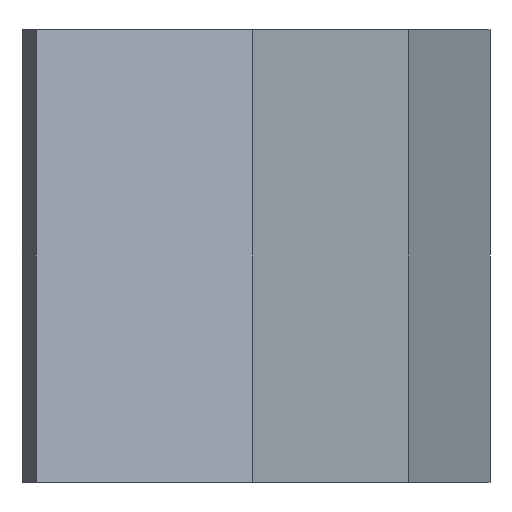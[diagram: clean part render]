
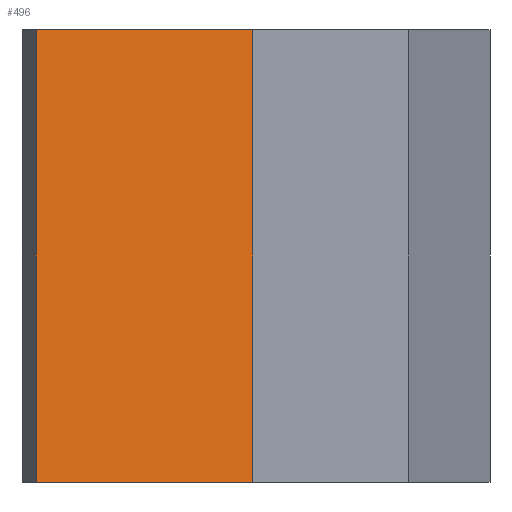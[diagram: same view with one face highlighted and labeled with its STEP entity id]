
A CAD part, left-side view. The second image highlights one B-rep face of the part: STEP entity #496.
In plain terms, the highlighted planar face has unit normal (-0.805, -0.594, 0).
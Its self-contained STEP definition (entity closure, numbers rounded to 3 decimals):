
#44 = PLANE('',#45);
#45 = AXIS2_PLACEMENT_3D('',#46,#47,#48);
#46 = CARTESIAN_POINT('',(64.086,-40.,-55.));
#47 = DIRECTION('',(0.,0.,1.));
#48 = DIRECTION('',(-1.,0.,0.));
#97 = PLANE('',#98);
#98 = AXIS2_PLACEMENT_3D('',#99,#100,#101);
#99 = CARTESIAN_POINT('',(64.086,-40.,-16.));
#100 = DIRECTION('',(0.,0.,1.));
#101 = DIRECTION('',(-1.,0.,0.));
#391 = PLANE('',#392);
#392 = AXIS2_PLACEMENT_3D('',#393,#394,#395);
#393 = CARTESIAN_POINT('',(-32.107,-72.078,-16.));
#394 = DIRECTION('',(0.593,0.805,-0.));
#395 = DIRECTION('',(-0.805,0.593,0.));
#428 = VERTEX_POINT('',#429);
#429 = CARTESIAN_POINT('',(-50.333,-58.644,-55.));
#450 = EDGE_CURVE('',#428,#451,#453,.T.);
#451 = VERTEX_POINT('',#452);
#452 = CARTESIAN_POINT('',(-50.333,-58.644,-16.));
#453 = SURFACE_CURVE('',#454,(#457,#463),.PCURVE_S1.);
#454 = B_SPLINE_CURVE_WITH_KNOTS('',1,(#455,#456),.UNSPECIFIED.,.F.,.F.,
  (2,2),(0.,1.),.PIECEWISE_BEZIER_KNOTS.);
#455 = CARTESIAN_POINT('',(-50.333,-58.644,-55.));
#456 = CARTESIAN_POINT('',(-50.333,-58.644,-16.));
#457 = PCURVE('',#391,#458);
#458 = DEFINITIONAL_REPRESENTATION('',(#459),#462);
#459 = B_SPLINE_CURVE_WITH_KNOTS('',1,(#460,#461),.UNSPECIFIED.,.F.,.F.,
  (2,2),(0.,1.),.PIECEWISE_BEZIER_KNOTS.);
#460 = CARTESIAN_POINT('',(22.641,-39.));
#461 = CARTESIAN_POINT('',(22.641,0.));
#462 = ( GEOMETRIC_REPRESENTATION_CONTEXT(2) 
PARAMETRIC_REPRESENTATION_CONTEXT() REPRESENTATION_CONTEXT('2D SPACE',''
  ) );
#463 = PCURVE('',#464,#469);
#464 = PLANE('',#465);
#465 = AXIS2_PLACEMENT_3D('',#466,#467,#468);
#466 = CARTESIAN_POINT('',(-50.333,-58.644,-16.));
#467 = DIRECTION('',(0.805,0.594,-0.));
#468 = DIRECTION('',(-0.594,0.805,0.));
#469 = DEFINITIONAL_REPRESENTATION('',(#470),#473);
#470 = B_SPLINE_CURVE_WITH_KNOTS('',1,(#471,#472),.UNSPECIFIED.,.F.,.F.,
  (2,2),(0.,1.),.PIECEWISE_BEZIER_KNOTS.);
#471 = CARTESIAN_POINT('',(0.,-39.));
#472 = CARTESIAN_POINT('',(0.,0.));
#473 = ( GEOMETRIC_REPRESENTATION_CONTEXT(2) 
PARAMETRIC_REPRESENTATION_CONTEXT() REPRESENTATION_CONTEXT('2D SPACE',''
  ) );
#496 = ADVANCED_FACE('',(#497),#464,.F.);
#497 = FACE_BOUND('',#498,.F.);
#498 = EDGE_LOOP('',(#499,#522,#547,#568));
#499 = ORIENTED_EDGE('',*,*,#500,.T.);
#500 = EDGE_CURVE('',#428,#501,#503,.T.);
#501 = VERTEX_POINT('',#502);
#502 = CARTESIAN_POINT('',(-64.086,-40.,-55.));
#503 = SURFACE_CURVE('',#504,(#508,#515),.PCURVE_S1.);
#504 = LINE('',#505,#506);
#505 = CARTESIAN_POINT('',(-50.333,-58.644,-55.));
#506 = VECTOR('',#507,1.);
#507 = DIRECTION('',(-0.594,0.805,0.));
#508 = PCURVE('',#464,#509);
#509 = DEFINITIONAL_REPRESENTATION('',(#510),#514);
#510 = LINE('',#511,#512);
#511 = CARTESIAN_POINT('',(0.,-39.));
#512 = VECTOR('',#513,1.);
#513 = DIRECTION('',(1.,0.));
#514 = ( GEOMETRIC_REPRESENTATION_CONTEXT(2) 
PARAMETRIC_REPRESENTATION_CONTEXT() REPRESENTATION_CONTEXT('2D SPACE',''
  ) );
#515 = PCURVE('',#44,#516);
#516 = DEFINITIONAL_REPRESENTATION('',(#517),#521);
#517 = LINE('',#518,#519);
#518 = CARTESIAN_POINT('',(114.419,18.644));
#519 = VECTOR('',#520,1.);
#520 = DIRECTION('',(0.594,-0.805));
#521 = ( GEOMETRIC_REPRESENTATION_CONTEXT(2) 
PARAMETRIC_REPRESENTATION_CONTEXT() REPRESENTATION_CONTEXT('2D SPACE',''
  ) );
#522 = ORIENTED_EDGE('',*,*,#523,.T.);
#523 = EDGE_CURVE('',#501,#524,#526,.T.);
#524 = VERTEX_POINT('',#525);
#525 = CARTESIAN_POINT('',(-64.086,-40.,-16.));
#526 = SURFACE_CURVE('',#527,(#530,#536),.PCURVE_S1.);
#527 = B_SPLINE_CURVE_WITH_KNOTS('',1,(#528,#529),.UNSPECIFIED.,.F.,.F.,
  (2,2),(0.,1.),.PIECEWISE_BEZIER_KNOTS.);
#528 = CARTESIAN_POINT('',(-64.086,-40.,-55.));
#529 = CARTESIAN_POINT('',(-64.086,-40.,-16.));
#530 = PCURVE('',#464,#531);
#531 = DEFINITIONAL_REPRESENTATION('',(#532),#535);
#532 = B_SPLINE_CURVE_WITH_KNOTS('',1,(#533,#534),.UNSPECIFIED.,.F.,.F.,
  (2,2),(0.,1.),.PIECEWISE_BEZIER_KNOTS.);
#533 = CARTESIAN_POINT('',(23.168,-39.));
#534 = CARTESIAN_POINT('',(23.168,0.));
#535 = ( GEOMETRIC_REPRESENTATION_CONTEXT(2) 
PARAMETRIC_REPRESENTATION_CONTEXT() REPRESENTATION_CONTEXT('2D SPACE',''
  ) );
#536 = PCURVE('',#537,#542);
#537 = PLANE('',#538);
#538 = AXIS2_PLACEMENT_3D('',#539,#540,#541);
#539 = CARTESIAN_POINT('',(-64.086,-40.,-16.));
#540 = DIRECTION('',(0.5,-0.866,0.));
#541 = DIRECTION('',(0.866,0.5,0.));
#542 = DEFINITIONAL_REPRESENTATION('',(#543),#546);
#543 = B_SPLINE_CURVE_WITH_KNOTS('',1,(#544,#545),.UNSPECIFIED.,.F.,.F.,
  (2,2),(0.,1.),.PIECEWISE_BEZIER_KNOTS.);
#544 = CARTESIAN_POINT('',(0.,-39.));
#545 = CARTESIAN_POINT('',(0.,0.));
#546 = ( GEOMETRIC_REPRESENTATION_CONTEXT(2) 
PARAMETRIC_REPRESENTATION_CONTEXT() REPRESENTATION_CONTEXT('2D SPACE',''
  ) );
#547 = ORIENTED_EDGE('',*,*,#548,.F.);
#548 = EDGE_CURVE('',#451,#524,#549,.T.);
#549 = SURFACE_CURVE('',#550,(#554,#561),.PCURVE_S1.);
#550 = LINE('',#551,#552);
#551 = CARTESIAN_POINT('',(-50.333,-58.644,-16.));
#552 = VECTOR('',#553,1.);
#553 = DIRECTION('',(-0.594,0.805,0.));
#554 = PCURVE('',#464,#555);
#555 = DEFINITIONAL_REPRESENTATION('',(#556),#560);
#556 = LINE('',#557,#558);
#557 = CARTESIAN_POINT('',(0.,0.));
#558 = VECTOR('',#559,1.);
#559 = DIRECTION('',(1.,0.));
#560 = ( GEOMETRIC_REPRESENTATION_CONTEXT(2) 
PARAMETRIC_REPRESENTATION_CONTEXT() REPRESENTATION_CONTEXT('2D SPACE',''
  ) );
#561 = PCURVE('',#97,#562);
#562 = DEFINITIONAL_REPRESENTATION('',(#563),#567);
#563 = LINE('',#564,#565);
#564 = CARTESIAN_POINT('',(114.419,18.644));
#565 = VECTOR('',#566,1.);
#566 = DIRECTION('',(0.594,-0.805));
#567 = ( GEOMETRIC_REPRESENTATION_CONTEXT(2) 
PARAMETRIC_REPRESENTATION_CONTEXT() REPRESENTATION_CONTEXT('2D SPACE',''
  ) );
#568 = ORIENTED_EDGE('',*,*,#450,.F.);
